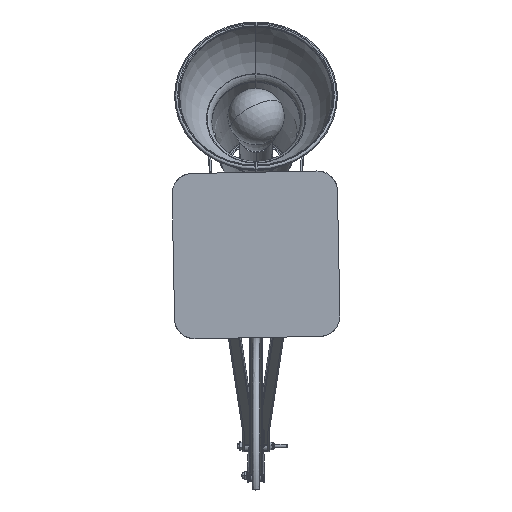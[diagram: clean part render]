
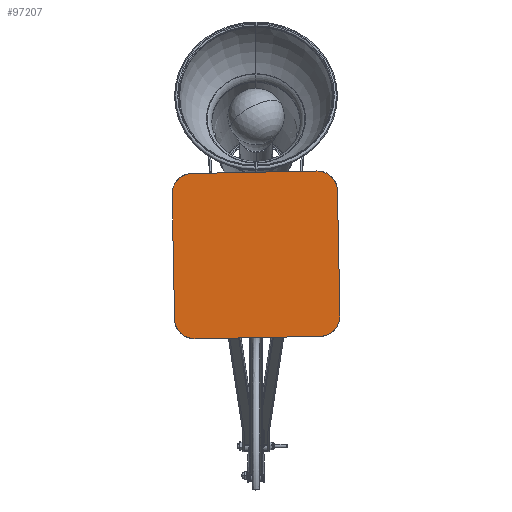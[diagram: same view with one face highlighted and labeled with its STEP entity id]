
A CAD part, front view. The second image highlights one B-rep face of the part: STEP entity #97207.
In plain terms, the highlighted planar face has unit normal (0, -1, 0).
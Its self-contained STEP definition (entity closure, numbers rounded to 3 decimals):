
#677 = VECTOR ( 'NONE', #1378, 1000. ) ;
#1378 = DIRECTION ( 'NONE',  ( -0.02, 0., 1. ) ) ;
#1481 = ORIENTED_EDGE ( 'NONE', *, *, #13719, .T. ) ;
#5297 = DIRECTION ( 'NONE',  ( 1., 0., 0.02 ) ) ;
#6121 = ORIENTED_EDGE ( 'NONE', *, *, #127016, .F. ) ;
#6143 = AXIS2_PLACEMENT_3D ( 'NONE', #152791, #61294, #168221 ) ;
#13719 = EDGE_CURVE ( 'NONE', #192647, #94786, #38119, .T. ) ;
#22227 = CARTESIAN_POINT ( 'NONE',  ( 50.993, 0., -48.987 ) ) ;
#27166 = EDGE_CURVE ( 'NONE', #52648, #158281, #44470, .T. ) ;
#28456 = DIRECTION ( 'NONE',  ( 0., -1., 0. ) ) ;
#30091 = CIRCLE ( 'NONE', #83142, 16. ) ;
#31902 = LINE ( 'NONE', #67779, #113153 ) ;
#34949 = ORIENTED_EDGE ( 'NONE', *, *, #189967, .T. ) ;
#36041 = VERTEX_POINT ( 'NONE', #84125 ) ;
#37586 = DIRECTION ( 'NONE',  ( -0.02, 0., 1. ) ) ;
#38088 = VERTEX_POINT ( 'NONE', #129247 ) ;
#38119 = CIRCLE ( 'NONE', #6143, 16. ) ;
#44470 = CIRCLE ( 'NONE', #68223, 16. ) ;
#45442 = CARTESIAN_POINT ( 'NONE',  ( -64.662, 0., -67.311 ) ) ;
#52439 = DIRECTION ( 'NONE',  ( 0.02, 0., -1. ) ) ;
#52648 = VERTEX_POINT ( 'NONE', #118761 ) ;
#58305 = CIRCLE ( 'NONE', #111957, 16. ) ;
#58523 = CARTESIAN_POINT ( 'NONE',  ( 48.987, 0., 50.993 ) ) ;
#60711 = DIRECTION ( 'NONE',  ( -1., 0., -0.02 ) ) ;
#60985 = EDGE_CURVE ( 'NONE', #175591, #153923, #31902, .T. ) ;
#61294 = DIRECTION ( 'NONE',  ( 0., -1., 0. ) ) ;
#67779 = CARTESIAN_POINT ( 'NONE',  ( 67.311, 0., -64.662 ) ) ;
#68223 = AXIS2_PLACEMENT_3D ( 'NONE', #120039, #28456, #135434 ) ;
#69800 = LINE ( 'NONE', #174320, #151161 ) ;
#71710 = LINE ( 'NONE', #183018, #107592 ) ;
#73858 = DIRECTION ( 'NONE',  ( -0.02, 0., 1. ) ) ;
#82276 = ORIENTED_EDGE ( 'NONE', *, *, #104784, .F. ) ;
#83142 = AXIS2_PLACEMENT_3D ( 'NONE', #22227, #129125, #37586 ) ;
#84125 = CARTESIAN_POINT ( 'NONE',  ( 51.314, 0., -64.984 ) ) ;
#86233 = CARTESIAN_POINT ( 'NONE',  ( -66.99, 0., 48.666 ) ) ;
#90583 = DIRECTION ( 'NONE',  ( 0., 1., 0. ) ) ;
#91348 = EDGE_CURVE ( 'NONE', #52648, #94786, #168028, .T. ) ;
#94786 = VERTEX_POINT ( 'NONE', #86233 ) ;
#95454 = ORIENTED_EDGE ( 'NONE', *, *, #91348, .F. ) ;
#97207 = ADVANCED_FACE ( 'NONE', ( #151972 ), #120651, .F. ) ;
#99387 = ORIENTED_EDGE ( 'NONE', *, *, #27166, .T. ) ;
#104784 = EDGE_CURVE ( 'NONE', #36041, #158281, #71710, .T. ) ;
#107592 = VECTOR ( 'NONE', #60711, 1000. ) ;
#111957 = AXIS2_PLACEMENT_3D ( 'NONE', #58523, #165449, #73858 ) ;
#113153 = VECTOR ( 'NONE', #52439, 1000. ) ;
#117846 = AXIS2_PLACEMENT_3D ( 'NONE', #182200, #90583, #197525 ) ;
#118761 = CARTESIAN_POINT ( 'NONE',  ( -64.984, 0., -51.314 ) ) ;
#120039 = CARTESIAN_POINT ( 'NONE',  ( -48.987, 0., -50.993 ) ) ;
#120651 = PLANE ( 'NONE',  #117846 ) ;
#127016 = EDGE_CURVE ( 'NONE', #192647, #38088, #69800, .T. ) ;
#129125 = DIRECTION ( 'NONE',  ( 0., -1., 0. ) ) ;
#129247 = CARTESIAN_POINT ( 'NONE',  ( 48.666, 0., 66.99 ) ) ;
#130292 = EDGE_LOOP ( 'NONE', ( #6121, #1481, #95454, #99387, #82276, #34949, #189998, #170516 ) ) ;
#131782 = CARTESIAN_POINT ( 'NONE',  ( -51.314, 0., 64.984 ) ) ;
#135434 = DIRECTION ( 'NONE',  ( -0.02, 0., 1. ) ) ;
#151161 = VECTOR ( 'NONE', #5297, 1000. ) ;
#151972 = FACE_OUTER_BOUND ( 'NONE', #130292, .T. ) ;
#152791 = CARTESIAN_POINT ( 'NONE',  ( -50.993, 0., 48.987 ) ) ;
#153923 = VERTEX_POINT ( 'NONE', #183237 ) ;
#156375 = EDGE_CURVE ( 'NONE', #175591, #38088, #58305, .T. ) ;
#158281 = VERTEX_POINT ( 'NONE', #175117 ) ;
#165449 = DIRECTION ( 'NONE',  ( 0., -1., 0. ) ) ;
#168028 = LINE ( 'NONE', #45442, #677 ) ;
#168221 = DIRECTION ( 'NONE',  ( -0.02, 0., 1. ) ) ;
#170516 = ORIENTED_EDGE ( 'NONE', *, *, #156375, .T. ) ;
#174320 = CARTESIAN_POINT ( 'NONE',  ( -67.311, 0., 64.662 ) ) ;
#175117 = CARTESIAN_POINT ( 'NONE',  ( -48.666, 0., -66.99 ) ) ;
#175591 = VERTEX_POINT ( 'NONE', #183276 ) ;
#182200 = CARTESIAN_POINT ( 'NONE',  ( 0., 0., 0. ) ) ;
#183018 = CARTESIAN_POINT ( 'NONE',  ( -64.662, 0., -67.311 ) ) ;
#183237 = CARTESIAN_POINT ( 'NONE',  ( 66.99, 0., -48.666 ) ) ;
#183276 = CARTESIAN_POINT ( 'NONE',  ( 64.984, 0., 51.314 ) ) ;
#189967 = EDGE_CURVE ( 'NONE', #36041, #153923, #30091, .T. ) ;
#189998 = ORIENTED_EDGE ( 'NONE', *, *, #60985, .F. ) ;
#192647 = VERTEX_POINT ( 'NONE', #131782 ) ;
#197525 = DIRECTION ( 'NONE',  ( -0.02, 0., 1. ) ) ;
